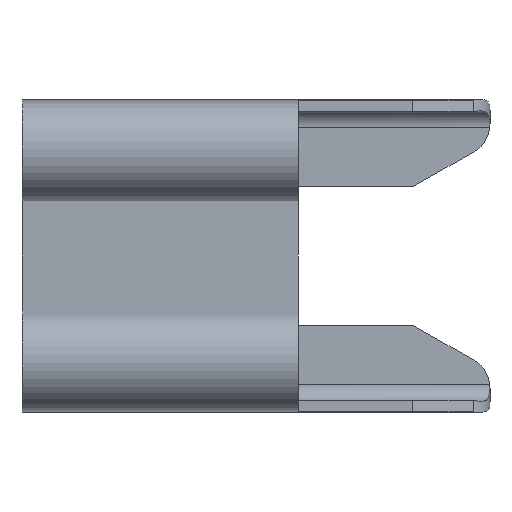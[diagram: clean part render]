
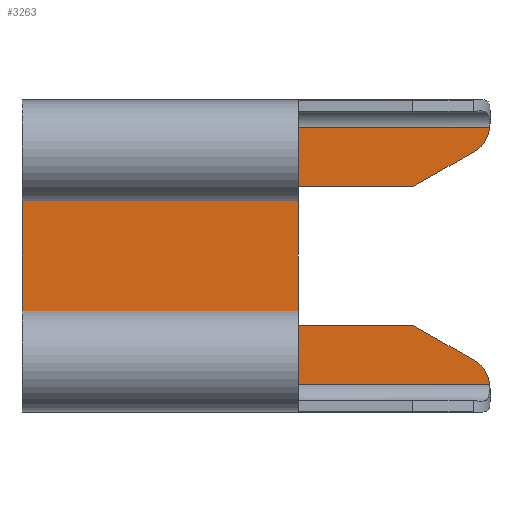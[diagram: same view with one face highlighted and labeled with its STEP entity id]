
A CAD part, left-side view. The second image highlights one B-rep face of the part: STEP entity #3263.
In plain terms, the highlighted planar face has unit normal (-1, 0, 0).
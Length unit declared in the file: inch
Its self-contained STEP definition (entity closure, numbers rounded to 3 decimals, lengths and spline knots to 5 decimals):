
#34=CIRCLE('',#3396,0.03);
#35=CIRCLE('',#3397,0.03);
#266=FACE_OUTER_BOUND('',#452,.T.);
#452=EDGE_LOOP('',(#2818,#2819,#2820,#2821,#2822,#2823,#2824,#2825,#2826,
#2827,#2828,#2829));
#877=LINE('',#5917,#1193);
#878=LINE('',#5920,#1194);
#879=LINE('',#5922,#1195);
#880=LINE('',#5924,#1196);
#881=LINE('',#5926,#1197);
#882=LINE('',#5930,#1198);
#883=LINE('',#5932,#1199);
#884=LINE('',#5934,#1200);
#885=LINE('',#5936,#1201);
#886=LINE('',#5938,#1202);
#1193=VECTOR('',#3851,0.3937);
#1194=VECTOR('',#3854,0.3937);
#1195=VECTOR('',#3855,0.3937);
#1196=VECTOR('',#3856,0.3937);
#1197=VECTOR('',#3857,0.3937);
#1198=VECTOR('',#3860,0.3937);
#1199=VECTOR('',#3861,0.3937);
#1200=VECTOR('',#3862,0.3937);
#1201=VECTOR('',#3863,0.3937);
#1202=VECTOR('',#3864,0.3937);
#1519=VERTEX_POINT('',#5880);
#1526=VERTEX_POINT('',#5904);
#1527=VERTEX_POINT('',#5919);
#1528=VERTEX_POINT('',#5921);
#1529=VERTEX_POINT('',#5923);
#1530=VERTEX_POINT('',#5925);
#1531=VERTEX_POINT('',#5927);
#1532=VERTEX_POINT('',#5929);
#1533=VERTEX_POINT('',#5931);
#1534=VERTEX_POINT('',#5933);
#1535=VERTEX_POINT('',#5935);
#1536=VERTEX_POINT('',#5937);
#1970=EDGE_CURVE('',#1526,#1519,#877,.T.);
#1971=EDGE_CURVE('',#1526,#1527,#878,.T.);
#1972=EDGE_CURVE('',#1528,#1527,#879,.T.);
#1973=EDGE_CURVE('',#1529,#1528,#880,.T.);
#1974=EDGE_CURVE('',#1530,#1529,#881,.T.);
#1975=EDGE_CURVE('',#1531,#1530,#34,.T.);
#1976=EDGE_CURVE('',#1532,#1531,#882,.T.);
#1977=EDGE_CURVE('',#1533,#1532,#883,.T.);
#1978=EDGE_CURVE('',#1533,#1534,#884,.T.);
#1979=EDGE_CURVE('',#1534,#1535,#885,.T.);
#1980=EDGE_CURVE('',#1535,#1536,#886,.T.);
#1981=EDGE_CURVE('',#1519,#1536,#35,.T.);
#2818=ORIENTED_EDGE('',*,*,#1970,.F.);
#2819=ORIENTED_EDGE('',*,*,#1971,.T.);
#2820=ORIENTED_EDGE('',*,*,#1972,.F.);
#2821=ORIENTED_EDGE('',*,*,#1973,.F.);
#2822=ORIENTED_EDGE('',*,*,#1974,.F.);
#2823=ORIENTED_EDGE('',*,*,#1975,.F.);
#2824=ORIENTED_EDGE('',*,*,#1976,.F.);
#2825=ORIENTED_EDGE('',*,*,#1977,.F.);
#2826=ORIENTED_EDGE('',*,*,#1978,.T.);
#2827=ORIENTED_EDGE('',*,*,#1979,.T.);
#2828=ORIENTED_EDGE('',*,*,#1980,.T.);
#2829=ORIENTED_EDGE('',*,*,#1981,.F.);
#3090=PLANE('',#3395);
#3263=ADVANCED_FACE('',(#266),#3090,.T.);
#3395=AXIS2_PLACEMENT_3D('',#5918,#3852,#3853);
#3396=AXIS2_PLACEMENT_3D('',#5928,#3858,#3859);
#3397=AXIS2_PLACEMENT_3D('',#5939,#3865,#3866);
#3851=DIRECTION('',(0.,0.,-1.));
#3852=DIRECTION('center_axis',(-1.,0.,0.));
#3853=DIRECTION('ref_axis',(0.,0.,1.));
#3854=DIRECTION('',(0.,1.,0.));
#3855=DIRECTION('',(0.,0.,1.));
#3856=DIRECTION('',(0.,1.,0.));
#3857=DIRECTION('',(0.,0.,-1.));
#3858=DIRECTION('center_axis',(1.,0.,0.));
#3859=DIRECTION('ref_axis',(0.,-0.865,0.502));
#3860=DIRECTION('',(0.,-0.868,-0.496));
#3861=DIRECTION('',(0.,-1.,0.));
#3862=DIRECTION('',(0.,0.,1.));
#3863=DIRECTION('',(0.,-1.,0.));
#3864=DIRECTION('',(0.,-0.868,0.496));
#3865=DIRECTION('center_axis',(1.,0.,0.));
#3866=DIRECTION('ref_axis',(0.,-0.865,-0.502));
#5880=CARTESIAN_POINT('',(-0.01,-0.17284,0.11549));
#5904=CARTESIAN_POINT('',(-0.01,-0.17284,0.11619));
#5917=CARTESIAN_POINT('',(-0.01,-0.17284,0.11642));
#5918=CARTESIAN_POINT('Origin',(-0.01,0.,-0.11619));
#5919=CARTESIAN_POINT('',(-0.01,0.25,0.11619));
#5920=CARTESIAN_POINT('',(-0.01,0.,0.11619));
#5921=CARTESIAN_POINT('',(-0.01,0.25,-0.11619));
#5922=CARTESIAN_POINT('',(-0.01,0.25,-0.11619));
#5923=CARTESIAN_POINT('',(-0.01,-0.17284,-0.11619));
#5924=CARTESIAN_POINT('',(-0.01,0.,-0.11619));
#5925=CARTESIAN_POINT('',(-0.01,-0.17284,-0.11549));
#5926=CARTESIAN_POINT('',(-0.01,-0.17284,-0.11642));
#5927=CARTESIAN_POINT('',(-0.01,-0.15805,-0.09386));
#5928=CARTESIAN_POINT('Origin',(-0.01,-0.14317,-0.11991));
#5929=CARTESIAN_POINT('',(-0.01,-0.10317,-0.0625));
#5930=CARTESIAN_POINT('',(-0.01,-0.09334,-0.05689));
#5931=CARTESIAN_POINT('',(-0.01,0.,-0.0625));
#5932=CARTESIAN_POINT('',(-0.01,0.,-0.0625));
#5933=CARTESIAN_POINT('',(-0.01,0.,0.0625));
#5934=CARTESIAN_POINT('',(-0.01,0.,-0.11619));
#5935=CARTESIAN_POINT('',(-0.01,-0.10317,0.0625));
#5936=CARTESIAN_POINT('',(-0.01,0.,0.0625));
#5937=CARTESIAN_POINT('',(-0.01,-0.15805,0.09386));
#5938=CARTESIAN_POINT('',(-0.01,-0.08178,0.05028));
#5939=CARTESIAN_POINT('Origin',(-0.01,-0.14317,0.11991));
